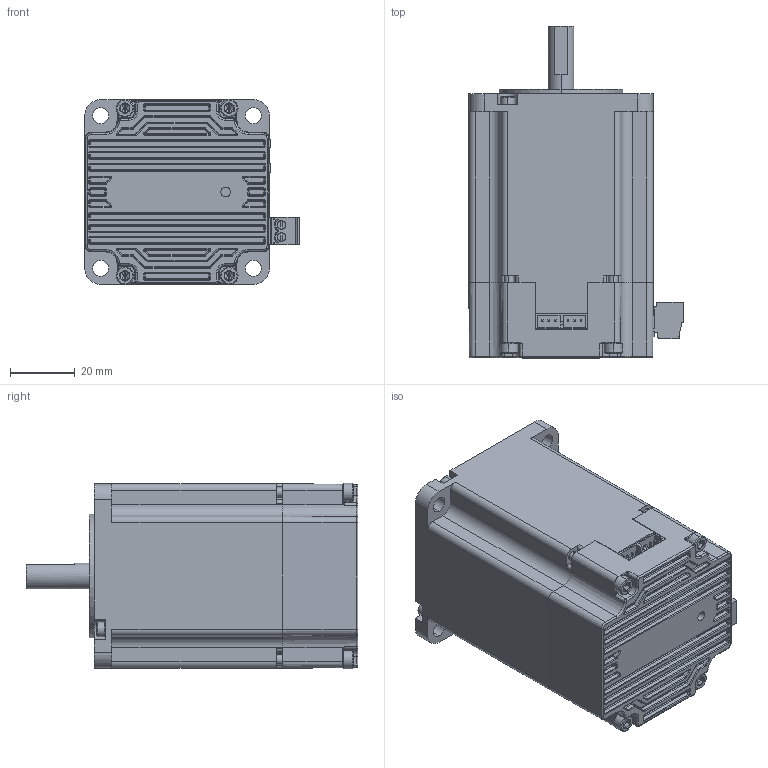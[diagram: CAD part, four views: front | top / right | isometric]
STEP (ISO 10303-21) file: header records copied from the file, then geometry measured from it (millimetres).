
FILE_DESCRIPTION((''),'2;1');
FILE_NAME('IT57AM13-D0821-24V-M','2025-05-07T14:09:29',('ruiwe'),(''),'CREO PARAMETRIC BY PTC INC, 2021063','CREO PARAMETRIC BY PTC INC, 2021063','');
FILE_SCHEMA(('CONFIG_CONTROL_DESIGN','SHAPE_APPEARANCE_LAYERS_GROUPS'));
Products named in the file (1): IT57AM13-D0821-24V-M
Bounding box: 66.25 x 102.5 x 57.24 mm (x, y, z)
Volume: 190097.6 mm3; surface area: 48242.4 mm2
Topology: 1 solids, 1 shells, 2491 faces, 5893 edges, 3448 vertices
Faces by surface type: plane 966, cylinder 922, torus 250, sphere 177, bspline 108, cone 68
Entity records: 83484 total; most frequent: CARTESIAN_POINT 19402, DIRECTION 12256, ORIENTED_EDGE 11766, EDGE_CURVE 5883, AXIS2_PLACEMENT_3D 4388, VECTOR 3480, LINE 3480, VERTEX_POINT 3448
